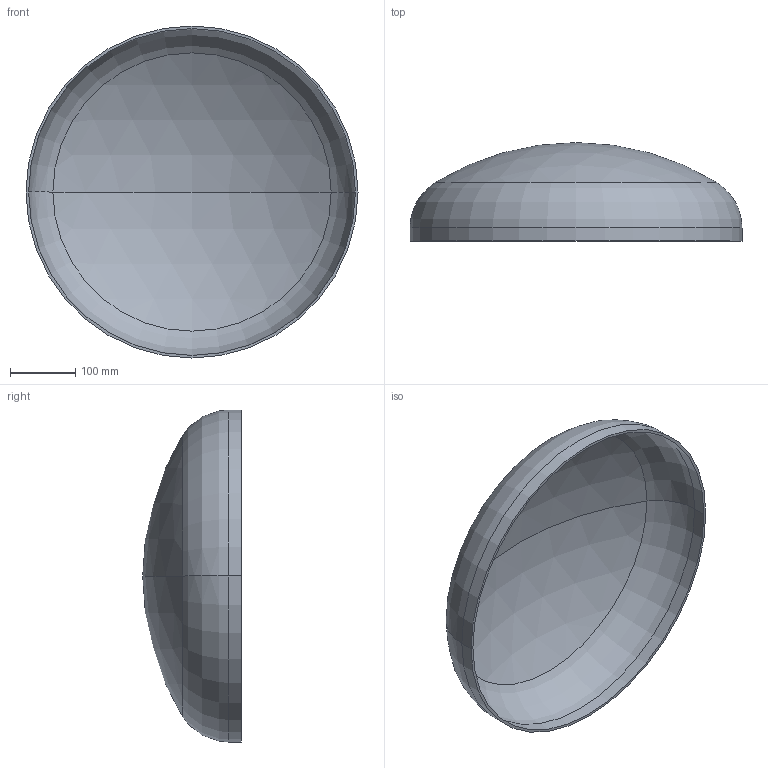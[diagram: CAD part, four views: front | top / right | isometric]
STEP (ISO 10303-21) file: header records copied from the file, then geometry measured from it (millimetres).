
FILE_DESCRIPTION (( 'STEP AP203' ), '1' );
FILE_NAME ('DIN 28013 Korbbogenform_-_Boden DIN 28013 - 508 x 20 - I - s=4.step', '2016-07-01T07:51:49', ( '' ), ( '' ), 'SwSTEP 2.0', 'SolidWorks 2013', '' );
FILE_SCHEMA (( 'CONFIG_CONTROL_DESIGN' ));
Length unit declared in the file: millimetre
Products named in the file (1): DIN 28013 Korbbogenform_-_Boden DIN 28013 - 508 x 20 - I - s=4
Bounding box: 508 x 150.72 x 508 mm (x, y, z)
Volume: 1237359.7 mm3; surface area: 625046.6 mm2
Topology: 1 solids, 1 shells, 13 faces, 24 edges, 14 vertices
Faces by surface type: torus 4, cylinder 4, sphere 4, plane 1
Entity records: 407 total; most frequent: DIRECTION 72, CARTESIAN_POINT 52, ORIENTED_EDGE 48, AXIS2_PLACEMENT_3D 34, EDGE_CURVE 24, CIRCLE 20, EDGE_LOOP 14, VERTEX_POINT 14
